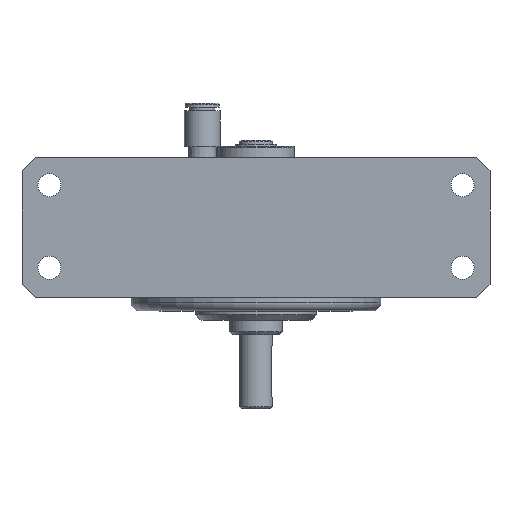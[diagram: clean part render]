
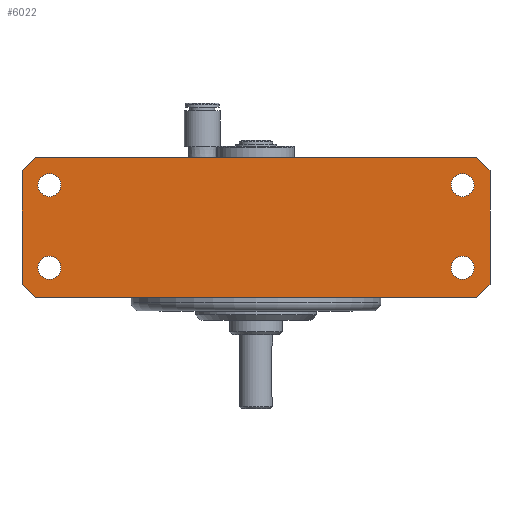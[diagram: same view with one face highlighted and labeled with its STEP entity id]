
A CAD part, front view. The second image highlights one B-rep face of the part: STEP entity #6022.
In plain terms, the highlighted planar face has unit normal (0, -1, 0).
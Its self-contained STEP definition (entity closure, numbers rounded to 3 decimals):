
#103 = CARTESIAN_POINT ( 'NONE',  ( 75.006, -70.002, -71.679 ) ) ;
#144 = CARTESIAN_POINT ( 'NONE',  ( -75.006, -70.002, -41.681 ) ) ;
#183 = DIRECTION ( 'NONE',  ( 0., -1., 0. ) ) ;
#317 = CARTESIAN_POINT ( 'NONE',  ( -75.006, -70.002, -71.679 ) ) ;
#336 = ORIENTED_EDGE ( 'NONE', *, *, #3106, .T. ) ;
#375 = DIRECTION ( 'NONE',  ( -1., 0., 0. ) ) ;
#405 = EDGE_CURVE ( 'NONE', #1020, #4605, #3763, .T. ) ;
#509 = DIRECTION ( 'NONE',  ( 0.707, 0., 0.707 ) ) ;
#609 = LINE ( 'NONE', #2718, #1181 ) ;
#626 = EDGE_LOOP ( 'NONE', ( #7072, #336 ) ) ;
#692 = EDGE_CURVE ( 'NONE', #4962, #3454, #8757, .T. ) ;
#705 = CIRCLE ( 'NONE', #2339, 4.166 ) ;
#714 = ORIENTED_EDGE ( 'NONE', *, *, #3283, .T. ) ;
#774 = CIRCLE ( 'NONE', #8117, 4.166 ) ;
#782 = EDGE_CURVE ( 'NONE', #8842, #4605, #2206, .T. ) ;
#794 = VERTEX_POINT ( 'NONE', #7394 ) ;
#859 = PLANE ( 'NONE',  #2537 ) ;
#1010 = CARTESIAN_POINT ( 'NONE',  ( -84.963, -70.002, -40.361 ) ) ;
#1016 = DIRECTION ( 'NONE',  ( 0., 1., 0. ) ) ;
#1018 = AXIS2_PLACEMENT_3D ( 'NONE', #1646, #10056, #3179 ) ;
#1020 = VERTEX_POINT ( 'NONE', #8242 ) ;
#1055 = DIRECTION ( 'NONE',  ( -1., 0., 0. ) ) ;
#1123 = LINE ( 'NONE', #5922, #5437 ) ;
#1167 = ORIENTED_EDGE ( 'NONE', *, *, #692, .F. ) ;
#1181 = VECTOR ( 'NONE', #1392, 1000. ) ;
#1237 = EDGE_CURVE ( 'NONE', #10038, #1455, #7683, .T. ) ;
#1267 = CARTESIAN_POINT ( 'NONE',  ( 75.006, -70.002, -71.679 ) ) ;
#1287 = VECTOR ( 'NONE', #5469, 1000. ) ;
#1380 = CIRCLE ( 'NONE', #5449, 4.166 ) ;
#1392 = DIRECTION ( 'NONE',  ( 0., 0., -1. ) ) ;
#1455 = VERTEX_POINT ( 'NONE', #5886 ) ;
#1494 = VECTOR ( 'NONE', #7189, 1000. ) ;
#1521 = EDGE_CURVE ( 'NONE', #1455, #1020, #609, .T. ) ;
#1558 = AXIS2_PLACEMENT_3D ( 'NONE', #103, #6346, #2450 ) ;
#1638 = EDGE_LOOP ( 'NONE', ( #714, #6378 ) ) ;
#1646 = CARTESIAN_POINT ( 'NONE',  ( -75.006, -70.002, -71.679 ) ) ;
#1721 = CIRCLE ( 'NONE', #1558, 4.166 ) ;
#1766 = ORIENTED_EDGE ( 'NONE', *, *, #1521, .T. ) ;
#1789 = DIRECTION ( 'NONE',  ( 0., 0., -1. ) ) ;
#1826 = DIRECTION ( 'NONE',  ( 0., 1., 0. ) ) ;
#1901 = EDGE_CURVE ( 'NONE', #4962, #6664, #1123, .T. ) ;
#1952 = VECTOR ( 'NONE', #509, 1000. ) ;
#1958 = CARTESIAN_POINT ( 'NONE',  ( 18.644, -70.002, -143.967 ) ) ;
#2005 = CIRCLE ( 'NONE', #1018, 4.166 ) ;
#2067 = LINE ( 'NONE', #7007, #1287 ) ;
#2109 = CARTESIAN_POINT ( 'NONE',  ( -80.137, -70.002, -82.474 ) ) ;
#2116 = ORIENTED_EDGE ( 'NONE', *, *, #405, .T. ) ;
#2141 = VERTEX_POINT ( 'NONE', #6526 ) ;
#2156 = ORIENTED_EDGE ( 'NONE', *, *, #9213, .T. ) ;
#2206 = LINE ( 'NONE', #5374, #8654 ) ;
#2339 = AXIS2_PLACEMENT_3D ( 'NONE', #6807, #4352, #3576 ) ;
#2450 = DIRECTION ( 'NONE',  ( -1., 0., 0. ) ) ;
#2537 = AXIS2_PLACEMENT_3D ( 'NONE', #1010, #183, #1789 ) ;
#2648 = DIRECTION ( 'NONE',  ( -1., 0., 0. ) ) ;
#2678 = CIRCLE ( 'NONE', #3493, 4.166 ) ;
#2718 = CARTESIAN_POINT ( 'NONE',  ( -84.963, -70.002, -40.361 ) ) ;
#2890 = VERTEX_POINT ( 'NONE', #3018 ) ;
#2893 = ORIENTED_EDGE ( 'NONE', *, *, #1237, .T. ) ;
#3018 = CARTESIAN_POINT ( 'NONE',  ( -79.172, -70.002, -71.679 ) ) ;
#3106 = EDGE_CURVE ( 'NONE', #794, #2141, #1380, .T. ) ;
#3143 = EDGE_CURVE ( 'NONE', #8423, #4144, #2678, .T. ) ;
#3179 = DIRECTION ( 'NONE',  ( -1., 0., 0. ) ) ;
#3205 = VERTEX_POINT ( 'NONE', #5202 ) ;
#3283 = EDGE_CURVE ( 'NONE', #4144, #8423, #705, .T. ) ;
#3378 = EDGE_LOOP ( 'NONE', ( #4808, #4249 ) ) ;
#3454 = VERTEX_POINT ( 'NONE', #8715 ) ;
#3493 = AXIS2_PLACEMENT_3D ( 'NONE', #5058, #6757, #9932 ) ;
#3576 = DIRECTION ( 'NONE',  ( -1., 0., 0. ) ) ;
#3609 = VECTOR ( 'NONE', #6062, 1000. ) ;
#3753 = CIRCLE ( 'NONE', #4728, 4.166 ) ;
#3763 = LINE ( 'NONE', #9922, #3609 ) ;
#3790 = VERTEX_POINT ( 'NONE', #9265 ) ;
#3798 = CARTESIAN_POINT ( 'NONE',  ( -86.893, -70.002, -38.43 ) ) ;
#3869 = DIRECTION ( 'NONE',  ( 0., 1., 0. ) ) ;
#4144 = VERTEX_POINT ( 'NONE', #8543 ) ;
#4249 = ORIENTED_EDGE ( 'NONE', *, *, #8214, .T. ) ;
#4293 = DIRECTION ( 'NONE',  ( -0.707, 0., 0.707 ) ) ;
#4352 = DIRECTION ( 'NONE',  ( 0., 1., 0. ) ) ;
#4364 = CIRCLE ( 'NONE', #4682, 4.166 ) ;
#4415 = ORIENTED_EDGE ( 'NONE', *, *, #1901, .T. ) ;
#4605 = VERTEX_POINT ( 'NONE', #2109 ) ;
#4615 = CARTESIAN_POINT ( 'NONE',  ( 80.137, -70.002, -31.674 ) ) ;
#4682 = AXIS2_PLACEMENT_3D ( 'NONE', #9878, #3869, #6845 ) ;
#4702 = CARTESIAN_POINT ( 'NONE',  ( 79.172, -70.002, -41.681 ) ) ;
#4728 = AXIS2_PLACEMENT_3D ( 'NONE', #1267, #1826, #1055 ) ;
#4808 = ORIENTED_EDGE ( 'NONE', *, *, #6614, .T. ) ;
#4962 = VERTEX_POINT ( 'NONE', #7182 ) ;
#5058 = CARTESIAN_POINT ( 'NONE',  ( 75.006, -70.002, -41.681 ) ) ;
#5202 = CARTESIAN_POINT ( 'NONE',  ( -70.841, -70.002, -71.679 ) ) ;
#5203 = ORIENTED_EDGE ( 'NONE', *, *, #9972, .T. ) ;
#5374 = CARTESIAN_POINT ( 'NONE',  ( -84.963, -70.002, -82.474 ) ) ;
#5437 = VECTOR ( 'NONE', #4293, 1000. ) ;
#5449 = AXIS2_PLACEMENT_3D ( 'NONE', #144, #1016, #2648 ) ;
#5469 = DIRECTION ( 'NONE',  ( -1., 0., 0. ) ) ;
#5559 = FACE_BOUND ( 'NONE', #626, .T. ) ;
#5595 = ORIENTED_EDGE ( 'NONE', *, *, #5631, .T. ) ;
#5631 = EDGE_CURVE ( 'NONE', #3790, #7937, #1721, .T. ) ;
#5886 = CARTESIAN_POINT ( 'NONE',  ( -84.963, -70.002, -36.5 ) ) ;
#5922 = CARTESIAN_POINT ( 'NONE',  ( 1.93, -70.002, 46.533 ) ) ;
#6008 = CARTESIAN_POINT ( 'NONE',  ( 80.137, -70.002, -82.474 ) ) ;
#6022 = ADVANCED_FACE ( 'NONE', ( #8010, #7861, #5559, #7202, #7155 ), #859, .T. ) ;
#6062 = DIRECTION ( 'NONE',  ( 0.707, 0., -0.707 ) ) ;
#6346 = DIRECTION ( 'NONE',  ( 0., 1., 0. ) ) ;
#6378 = ORIENTED_EDGE ( 'NONE', *, *, #3143, .T. ) ;
#6526 = CARTESIAN_POINT ( 'NONE',  ( -79.172, -70.002, -41.681 ) ) ;
#6565 = VECTOR ( 'NONE', #10006, 1000. ) ;
#6614 = EDGE_CURVE ( 'NONE', #2890, #3205, #2005, .T. ) ;
#6664 = VERTEX_POINT ( 'NONE', #4615 ) ;
#6671 = LINE ( 'NONE', #1958, #1952 ) ;
#6757 = DIRECTION ( 'NONE',  ( 0., 1., 0. ) ) ;
#6807 = CARTESIAN_POINT ( 'NONE',  ( 75.006, -70.002, -41.681 ) ) ;
#6845 = DIRECTION ( 'NONE',  ( -1., 0., 0. ) ) ;
#6933 = EDGE_LOOP ( 'NONE', ( #8525, #2156, #1167, #4415, #8482, #2893, #1766, #2116 ) ) ;
#7007 = CARTESIAN_POINT ( 'NONE',  ( -84.963, -70.002, -31.674 ) ) ;
#7072 = ORIENTED_EDGE ( 'NONE', *, *, #7570, .T. ) ;
#7155 = FACE_OUTER_BOUND ( 'NONE', #6933, .T. ) ;
#7182 = CARTESIAN_POINT ( 'NONE',  ( 84.963, -70.002, -36.5 ) ) ;
#7189 = DIRECTION ( 'NONE',  ( 0., 0., -1. ) ) ;
#7202 = FACE_BOUND ( 'NONE', #3378, .T. ) ;
#7301 = CARTESIAN_POINT ( 'NONE',  ( -80.137, -70.002, -31.674 ) ) ;
#7394 = CARTESIAN_POINT ( 'NONE',  ( -70.841, -70.002, -41.681 ) ) ;
#7570 = EDGE_CURVE ( 'NONE', #2141, #794, #4364, .T. ) ;
#7683 = LINE ( 'NONE', #3798, #6565 ) ;
#7747 = CARTESIAN_POINT ( 'NONE',  ( 70.841, -70.002, -71.679 ) ) ;
#7861 = FACE_BOUND ( 'NONE', #1638, .T. ) ;
#7937 = VERTEX_POINT ( 'NONE', #7747 ) ;
#8010 = FACE_BOUND ( 'NONE', #9142, .T. ) ;
#8117 = AXIS2_PLACEMENT_3D ( 'NONE', #317, #9005, #8244 ) ;
#8214 = EDGE_CURVE ( 'NONE', #3205, #2890, #774, .T. ) ;
#8242 = CARTESIAN_POINT ( 'NONE',  ( -84.963, -70.002, -77.648 ) ) ;
#8244 = DIRECTION ( 'NONE',  ( -1., 0., 0. ) ) ;
#8423 = VERTEX_POINT ( 'NONE', #4702 ) ;
#8452 = EDGE_CURVE ( 'NONE', #6664, #10038, #2067, .T. ) ;
#8482 = ORIENTED_EDGE ( 'NONE', *, *, #8452, .T. ) ;
#8525 = ORIENTED_EDGE ( 'NONE', *, *, #782, .F. ) ;
#8543 = CARTESIAN_POINT ( 'NONE',  ( 70.841, -70.002, -41.681 ) ) ;
#8654 = VECTOR ( 'NONE', #375, 1000. ) ;
#8715 = CARTESIAN_POINT ( 'NONE',  ( 84.963, -70.002, -77.648 ) ) ;
#8757 = LINE ( 'NONE', #9455, #1494 ) ;
#8842 = VERTEX_POINT ( 'NONE', #6008 ) ;
#9005 = DIRECTION ( 'NONE',  ( 0., 1., 0. ) ) ;
#9142 = EDGE_LOOP ( 'NONE', ( #5203, #5595 ) ) ;
#9213 = EDGE_CURVE ( 'NONE', #8842, #3454, #6671, .T. ) ;
#9265 = CARTESIAN_POINT ( 'NONE',  ( 79.172, -70.002, -71.679 ) ) ;
#9455 = CARTESIAN_POINT ( 'NONE',  ( 84.963, -70.002, -40.361 ) ) ;
#9878 = CARTESIAN_POINT ( 'NONE',  ( -75.006, -70.002, -41.681 ) ) ;
#9922 = CARTESIAN_POINT ( 'NONE',  ( -103.607, -70.002, -59.004 ) ) ;
#9932 = DIRECTION ( 'NONE',  ( -1., 0., 0. ) ) ;
#9972 = EDGE_CURVE ( 'NONE', #7937, #3790, #3753, .T. ) ;
#10006 = DIRECTION ( 'NONE',  ( -0.707, 0., -0.707 ) ) ;
#10038 = VERTEX_POINT ( 'NONE', #7301 ) ;
#10056 = DIRECTION ( 'NONE',  ( 0., 1., 0. ) ) ;
